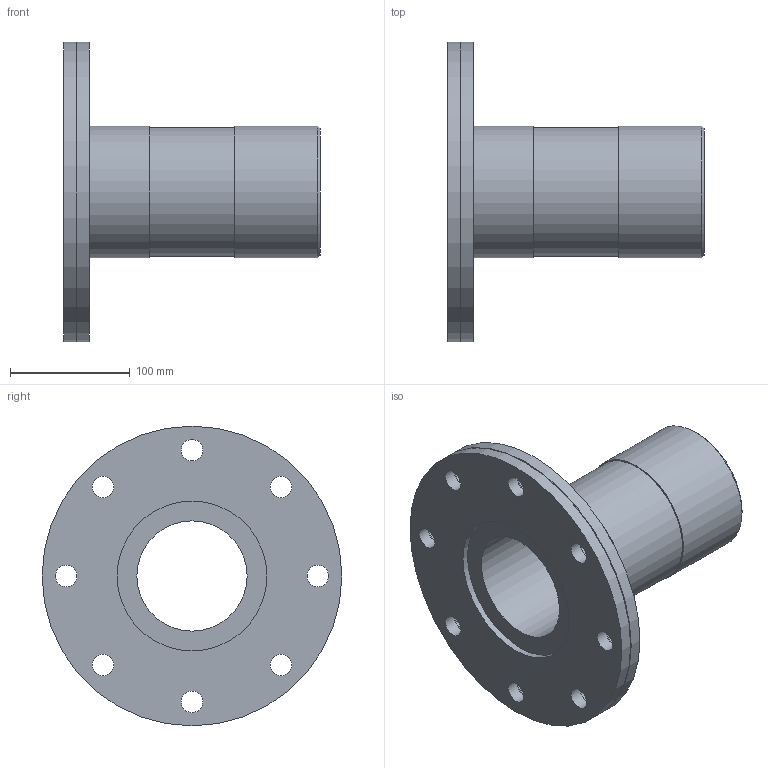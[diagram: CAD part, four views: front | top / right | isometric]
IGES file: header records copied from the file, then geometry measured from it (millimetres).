
Global section: file name: 872306110050_182306110050.ipt; native system: Autodesk Inventor 2015; preprocessor: unknown; author: Кирилл,,11,0; organization: 20170224.180708; date: 20170608.042714; units: millimetre
Bounding box: 214 x 250 x 250 mm (x, y, z)
Volume: 1286620.8 mm3; surface area: 244886.6 mm2
Topology: 1 solids, 1 shells, 50 faces, 147 edges, 104 vertices
Faces by surface type: revolution 35, plane 7, cylinder 5, cone 3
Full cylindrical faces by diameter (mm): 107.8 x1, 110 x2, 250 x2
